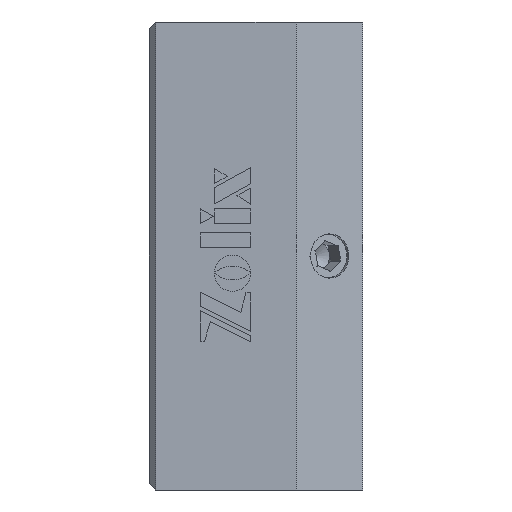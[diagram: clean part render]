
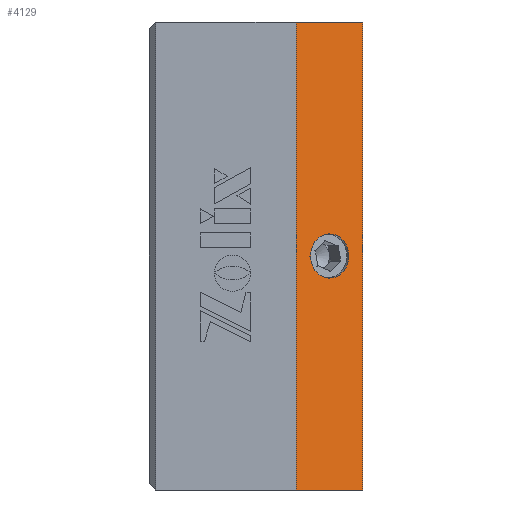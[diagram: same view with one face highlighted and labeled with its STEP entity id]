
A CAD part, left-side view. The second image highlights one B-rep face of the part: STEP entity #4129.
In plain terms, the highlighted planar face has unit normal (-0.866, -0.5, 0).
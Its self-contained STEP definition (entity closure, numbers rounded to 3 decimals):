
#1 = DIRECTION ( 'NONE',  ( 0., 0., -1. ) ) ;
#22 = FACE_BOUND ( 'NONE', #2547, .T. ) ;
#153 = DIRECTION ( 'NONE',  ( 0.866, 0.5, 0. ) ) ;
#184 = VERTEX_POINT ( 'NONE', #3833 ) ;
#327 = CARTESIAN_POINT ( 'NONE',  ( -25.904, -6.311, 38.5 ) ) ;
#392 = AXIS2_PLACEMENT_3D ( 'NONE', #4712, #2287, #3155 ) ;
#460 = ORIENTED_EDGE ( 'NONE', *, *, #4912, .F. ) ;
#466 = CARTESIAN_POINT ( 'NONE',  ( -25.284, -7.385, 56. ) ) ;
#529 = EDGE_CURVE ( 'NONE', #2257, #2933, #2129, .T. ) ;
#652 = VERTEX_POINT ( 'NONE', #5002 ) ;
#899 = EDGE_CURVE ( 'NONE', #652, #4493, #3898, .T. ) ;
#903 = DIRECTION ( 'NONE',  ( 0.5, -0.866, 0. ) ) ;
#1013 = VECTOR ( 'NONE', #1, 1000. ) ;
#1231 = EDGE_CURVE ( 'NONE', #4493, #652, #5156, .T. ) ;
#1233 = CARTESIAN_POINT ( 'NONE',  ( -23.017, -11.311, 56. ) ) ;
#1460 = PLANE ( 'NONE',  #2993 ) ;
#2129 = LINE ( 'NONE', #1233, #1013 ) ;
#2199 = DIRECTION ( 'NONE',  ( -0.866, -0.5, 0. ) ) ;
#2257 = VERTEX_POINT ( 'NONE', #3330 ) ;
#2272 = ORIENTED_EDGE ( 'NONE', *, *, #1231, .F. ) ;
#2274 = VERTEX_POINT ( 'NONE', #3877 ) ;
#2287 = DIRECTION ( 'NONE',  ( -0.866, -0.5, 0. ) ) ;
#2521 = EDGE_CURVE ( 'NONE', #2933, #184, #3957, .T. ) ;
#2547 = EDGE_LOOP ( 'NONE', ( #3234, #2272 ) ) ;
#2572 = LINE ( 'NONE', #3069, #4914 ) ;
#2588 = CARTESIAN_POINT ( 'NONE',  ( -24.459, -8.814, 56. ) ) ;
#2767 = DIRECTION ( 'NONE',  ( -0.5, 0.866, 0. ) ) ;
#2834 = ORIENTED_EDGE ( 'NONE', *, *, #3667, .T. ) ;
#2933 = VERTEX_POINT ( 'NONE', #5121 ) ;
#2993 = AXIS2_PLACEMENT_3D ( 'NONE', #5088, #153, #3921 ) ;
#3069 = CARTESIAN_POINT ( 'NONE',  ( -25.904, -6.311, 38.5 ) ) ;
#3123 = FACE_OUTER_BOUND ( 'NONE', #3598, .T. ) ;
#3155 = DIRECTION ( 'NONE',  ( 0.5, -0.866, 0. ) ) ;
#3234 = ORIENTED_EDGE ( 'NONE', *, *, #899, .F. ) ;
#3330 = CARTESIAN_POINT ( 'NONE',  ( -23.017, -11.311, 73.5 ) ) ;
#3487 = DIRECTION ( 'NONE',  ( 0., 0., 1. ) ) ;
#3497 = ORIENTED_EDGE ( 'NONE', *, *, #529, .F. ) ;
#3598 = EDGE_LOOP ( 'NONE', ( #2834, #460, #5266, #3497 ) ) ;
#3643 = LINE ( 'NONE', #5257, #4968 ) ;
#3667 = EDGE_CURVE ( 'NONE', #2257, #2274, #3643, .T. ) ;
#3774 = VECTOR ( 'NONE', #2767, 1000. ) ;
#3833 = CARTESIAN_POINT ( 'NONE',  ( -25.904, -6.311, 38.5 ) ) ;
#3877 = CARTESIAN_POINT ( 'NONE',  ( -25.904, -6.311, 73.5 ) ) ;
#3898 = CIRCLE ( 'NONE', #392, 1.65 ) ;
#3921 = DIRECTION ( 'NONE',  ( -0.5, 0.866, 0. ) ) ;
#3957 = LINE ( 'NONE', #327, #3774 ) ;
#4129 = ADVANCED_FACE ( 'NONE', ( #22, #3123 ), #1460, .F. ) ;
#4446 = DIRECTION ( 'NONE',  ( -0.5, 0.866, 0. ) ) ;
#4493 = VERTEX_POINT ( 'NONE', #466 ) ;
#4505 = AXIS2_PLACEMENT_3D ( 'NONE', #2588, #2199, #903 ) ;
#4712 = CARTESIAN_POINT ( 'NONE',  ( -24.459, -8.814, 56. ) ) ;
#4912 = EDGE_CURVE ( 'NONE', #184, #2274, #2572, .T. ) ;
#4914 = VECTOR ( 'NONE', #3487, 1000. ) ;
#4968 = VECTOR ( 'NONE', #4446, 1000. ) ;
#5002 = CARTESIAN_POINT ( 'NONE',  ( -23.634, -10.243, 56. ) ) ;
#5088 = CARTESIAN_POINT ( 'NONE',  ( -25.904, -6.311, 38.5 ) ) ;
#5121 = CARTESIAN_POINT ( 'NONE',  ( -23.017, -11.311, 38.5 ) ) ;
#5156 = CIRCLE ( 'NONE', #4505, 1.65 ) ;
#5257 = CARTESIAN_POINT ( 'NONE',  ( -25.904, -6.311, 73.5 ) ) ;
#5266 = ORIENTED_EDGE ( 'NONE', *, *, #2521, .F. ) ;
